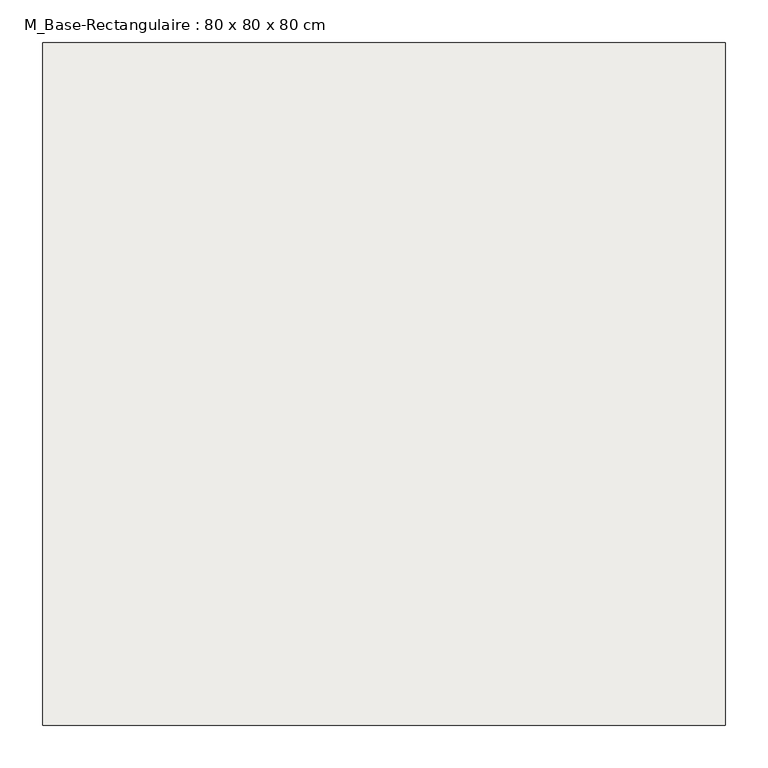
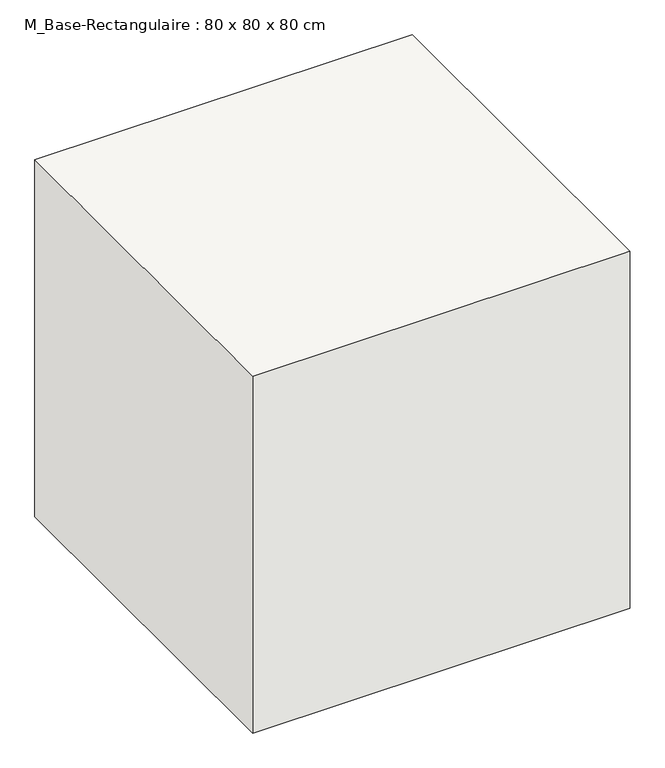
"""IFC4 building model written with IfcOpenShell, lengths in millimetres: slab geometry, M_Base-Rectangulaire : 80 x 80 x 80 cm."""

import ifcopenshell
import ifcopenshell.guid

model = None  # the IFC model being written
_history = None  # IfcOwnerHistory: only IFC2X3 demands one
_inside = {}  # id of a spatial element -> (the spatial element, [elements in it])
_under = {}  # id of a project, library or spatial element -> (it, [spatial elements below it])
_declared = {}  # id of a project -> (the project, [libraries it declares])
_typed = {}  # id of a type object -> (the type object, [elements of that type])
_made_of = {}  # id of a material, layer set ... -> (it, [elements and type objects made of it])


def new_model(schema):
    """Start an empty IFC model of exactly this schema.

    Asked for "IFC4X3", IfcOpenShell would pick the latest addendum, in which some entities
    have other attributes; the version numbers below select the first issue.
    IFC2X3 requires an IfcOwnerHistory on every rooted entity: one is made here for all.
    """
    global model, _history
    if schema == "IFC4X3":
        model = ifcopenshell.file(schema_version=(4, 3, 0, 0))
    else:
        model = ifcopenshell.file(schema=schema)
    _inside.clear()
    _under.clear()
    _declared.clear()
    _typed.clear()
    _made_of.clear()
    _history = None
    if model.schema == "IFC2X3":
        org = make("IfcOrganization", Name="unknown")
        user = make(
            "IfcPersonAndOrganization",
            ThePerson=make("IfcPerson", FamilyName="unknown"),
            TheOrganization=org,
        )
        app = make(
            "IfcApplication",
            ApplicationDeveloper=org,
            Version="unknown",
            ApplicationFullName="unknown",
            ApplicationIdentifier="unknown",
        )
        _history = make(
            "IfcOwnerHistory",
            OwningUser=user,
            OwningApplication=app,
            ChangeAction="ADDED",
            CreationDate=0,
        )
    return model


def make(cls, **values):
    """One entity of the class cls with the attributes given. An attribute that is None is left unset."""
    return model.create_entity(
        cls, **{name: value for name, value in values.items() if value is not None}
    )


def rooted(cls, **values):
    """An entity with a GlobalId (a new one), such as an element, a storey or a relation."""
    return make(cls, GlobalId=ifcopenshell.guid.new(), OwnerHistory=_history, **values)


def si_unit(unit_type, name, prefix=None):
    """IfcSIUnit, for example si_unit("LENGTHUNIT", "METRE", prefix="MILLI")."""
    return make("IfcSIUnit", UnitType=unit_type, Prefix=prefix, Name=name)


def assignment(units):
    """IfcUnitAssignment: the units of a project."""
    return None if units is None else make("IfcUnitAssignment", Units=units)


def point(xyz):
    """IfcCartesianPoint."""
    return None if xyz is None else make("IfcCartesianPoint", Coordinates=xyz)


def direction(xyz):
    """IfcDirection."""
    return None if xyz is None else make("IfcDirection", DirectionRatios=xyz)


def frame(location, z_axis=None, x_axis=None):
    """IfcAxis2Placement3D, a coordinate frame: its origin and axes. An axis left out is left unset."""
    return make(
        "IfcAxis2Placement3D",
        Location=point(location),
        Axis=direction(z_axis),
        RefDirection=direction(x_axis),
    )


def origin():
    """The frame at (0, 0, 0) with its axes left unset."""
    return frame((0.0, 0.0, 0.0))


def place(relative_to, where):
    """IfcLocalPlacement: puts the frame where relative to a parent placement (None: the world)."""
    return make(
        "IfcLocalPlacement", PlacementRelTo=relative_to, RelativePlacement=where
    )


def context(
    kind, dimensions, precision=None, world=None, true_north=None, identifier=None
):
    """IfcGeometricRepresentationContext, for example the 3D "Model" context."""
    return make(
        "IfcGeometricRepresentationContext",
        ContextIdentifier=identifier,
        ContextType=kind,
        CoordinateSpaceDimension=dimensions,
        Precision=precision,
        WorldCoordinateSystem=world,
        TrueNorth=true_north,
    )


def project(units=None, contexts=None):
    """IfcProject with its units and contexts."""
    return rooted(
        "IfcProject",
        Name="project",
        RepresentationContexts=contexts,
        UnitsInContext=assignment(units),
    )


def spatial(cls, under=None, at=None, **own):
    """A site, building, storey or space (cls), placed at a placement, below another one or the project."""
    s = rooted(cls, ObjectPlacement=at, **own)
    if under is not None:
        _under.setdefault(under.id(), (under, []))[1].append(s)
    return s


def polyline(points):
    """IfcPolyline through the points."""
    return make("IfcPolyline", Points=[point(p) for p in points])


def outline(outer, holes=None, kind="AREA"):
    """IfcArbitraryClosedProfileDef: a profile drawn as a closed curve; with holes, ...WithVoids."""
    if holes is None:
        return make("IfcArbitraryClosedProfileDef", ProfileType=kind, OuterCurve=outer)
    return make(
        "IfcArbitraryProfileDefWithVoids",
        ProfileType=kind,
        OuterCurve=outer,
        InnerCurves=holes,
    )


def extrude(swept, where, along, depth):
    """IfcExtrudedAreaSolid: the profile swept, set in the frame where, extruded along a direction by depth."""
    return make(
        "IfcExtrudedAreaSolid",
        SweptArea=swept,
        Position=where,
        ExtrudedDirection=direction(along),
        Depth=depth,
    )


def shape(context_of_items, identifier, shape_type, items):
    """IfcShapeRepresentation: the items that make up one representation, for example the "Body"."""
    return make(
        "IfcShapeRepresentation",
        ContextOfItems=context_of_items,
        RepresentationIdentifier=identifier,
        RepresentationType=shape_type,
        Items=items,
    )


def source(mapping_origin, context_of_items, identifier, shape_type, items):
    """IfcRepresentationMap: a shape defined once, which mapped items show again and again."""
    return make(
        "IfcRepresentationMap",
        MappingOrigin=mapping_origin,
        MappedRepresentation=shape(context_of_items, identifier, shape_type, items),
    )


def transform(
    local_origin,
    x_axis=None,
    y_axis=None,
    z_axis=None,
    scale=None,
    scale2=None,
    scale3=None,
    uniform=True,
):
    """IfcCartesianTransformationOperator3D, or its non-uniform kind. x_axis, y_axis, z_axis: its Axis1, 2, 3."""
    if uniform:
        return make(
            "IfcCartesianTransformationOperator3D",
            Axis1=direction(x_axis),
            Axis2=direction(y_axis),
            LocalOrigin=point(local_origin),
            Scale=scale,
            Axis3=direction(z_axis),
        )
    return make(
        "IfcCartesianTransformationOperator3DnonUniform",
        Axis1=direction(x_axis),
        Axis2=direction(y_axis),
        LocalOrigin=point(local_origin),
        Scale=scale,
        Axis3=direction(z_axis),
        Scale2=scale2,
        Scale3=scale3,
    )


def mapped(mapping_source, mapping_target):
    """IfcMappedItem: shows the shape of a source again, moved by a transform."""
    return make(
        "IfcMappedItem", MappingSource=mapping_source, MappingTarget=mapping_target
    )


def made_of(thing, what):
    """Note that an element or type object is made of a material, layer set ...; save() writes the relation."""
    if what is not None:
        _made_of.setdefault(what.id(), (what, []))[1].append(thing)
    return thing


def element(
    cls,
    number,
    at=None,
    inside=None,
    cuts=None,
    type_object=None,
    material=None,
    context=None,
    identifier="Body",
    shape_type=None,
    held_by="IfcProductDefinitionShape",
    body=None,
    shapes=None,
    **own,
):
    """One element of the class cls, such as IfcWall. Its Tag is "e" and its number.

    at: its placement. inside: the storey or other place that contains it. cuts: it is an
    opening in that element (IfcRelVoidsElement). A single representation is given by context,
    identifier, shape_type and body (its items); several are given by shapes. held_by: the class
    of the entity that holds the representations. save() writes the other relations.
    """
    e = rooted(cls, Tag="e%d" % number, ObjectPlacement=at, **own)
    if body is not None:
        shapes = [shape(context, identifier, shape_type, body)]
    if shapes is not None:
        e.Representation = make(held_by, Representations=shapes)
    if inside is not None:
        _inside.setdefault(inside.id(), (inside, []))[1].append(e)
    if cuts is not None:
        rooted(
            "IfcRelVoidsElement", RelatingBuildingElement=cuts, RelatedOpeningElement=e
        )
    if type_object is not None:
        _typed.setdefault(type_object.id(), (type_object, []))[1].append(e)
    return made_of(e, material)


def aggregate(whole, parts):
    """IfcRelAggregates: a whole, such as a stair, and the parts it consists of."""
    return rooted("IfcRelAggregates", RelatingObject=whole, RelatedObjects=parts)


def save(model, path):
    """Write the relations noted so far, then the file.

    IfcRelAggregates (storeys below a building ...), IfcRelContainedInSpatialStructure (elements
    in a storey), IfcRelDefinesByType, IfcRelAssociatesMaterial and IfcRelDeclares: one each for
    every whole, place, type object, material and project.
    """
    for whole, parts in _under.values():
        aggregate(whole, parts)
    for where, things in _inside.values():
        rooted(
            "IfcRelContainedInSpatialStructure",
            RelatedElements=things,
            RelatingStructure=where,
        )
    for kind, things in _typed.values():
        rooted("IfcRelDefinesByType", RelatedObjects=things, RelatingType=kind)
    for what, things in _made_of.values():
        rooted("IfcRelAssociatesMaterial", RelatedObjects=things, RelatingMaterial=what)
    for by, libraries in _declared.values():
        rooted("IfcRelDeclares", RelatingContext=by, RelatedDefinitions=libraries)
    model.write(path)


def m_base_rectangulaire_80_x_80_x_80_cm_704a9384(model_context):
    return source(origin(), model_context, "Body", "SweptSolid", [
        extrude(outline(polyline([(400.0, 400.0), (400.0, -400.0), (-400.0, -400.0), (-400.0, 400.0), (400.0, 400.0)])), frame((0.0, 0.0, -800.0), z_axis=(0.0, 0.0, 1.0), x_axis=(1.0, 0.0, 0.0)), (0.0, 0.0, 1.0), 800.0),
    ])


if __name__ == "__main__":
    model = new_model("IFC4")
    model_context = context("Model", 3, world=origin())
    ifc_project = project(units=[si_unit("LENGTHUNIT", "METRE", prefix="MILLI")], contexts=[model_context])
    site = spatial("IfcSite", under=ifc_project)
    building = spatial("IfcBuilding", under=site)
    placement = place(None, origin())
    m_base_rectangulaire_80_x_80_x_80_cm_shape = m_base_rectangulaire_80_x_80_x_80_cm_704a9384(model_context)
    element("IfcSlab", 1, ObjectType="M_Base-Rectangulaire : 80 x 80 x 80 cm", at=placement, inside=building, context=model_context, shape_type="MappedRepresentation", body=[
        mapped(m_base_rectangulaire_80_x_80_x_80_cm_shape, transform((0.0, 0.0, 0.0), x_axis=(1.0, 0.0, 0.0), y_axis=(0.0, 1.0, 0.0), z_axis=(0.0, 0.0, 1.0))),
    ])
    save(model, "model.ifc")
